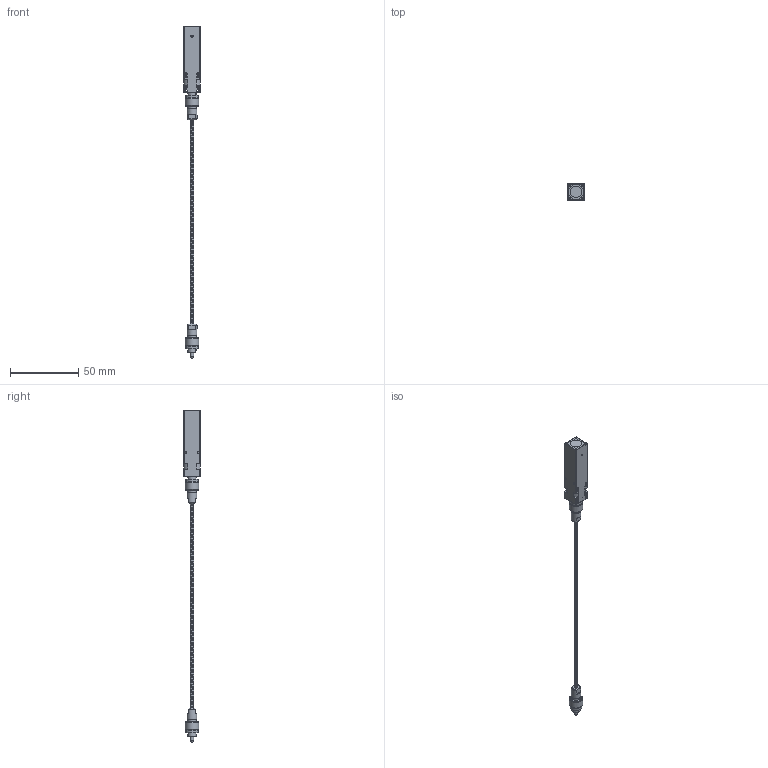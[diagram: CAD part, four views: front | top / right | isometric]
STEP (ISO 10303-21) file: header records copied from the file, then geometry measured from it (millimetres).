
FILE_DESCRIPTION(/* description */ ('IFS2407-0,8(HT)'),/* implementation_level */ '2;1');
FILE_NAME(/* name */ '104316_IFS2407-0,8(HT)_step.stp',/* time_stamp */ '2025-11-21T13:18:21+01:00',/* author */ ('S.Flämig'),/* organization */ (''),/* preprocessor_version */ 'ST-DEVELOPER v20.1',/* originating_system */ 'Autodesk Inventor 2026',/* authorisation */ '');
FILE_SCHEMA (('AUTOMOTIVE_DESIGN { 1 0 10303 214 3 1 1 }'));
Products named in the file (5): 104316_IFS2407-0,8(HT)_step; 104333_Fassung; DIN 914 - M2 x 3; 90010378-1CUS_HTFaser; Linse
Assembly tree (11 placements, depth 2):
  104316_IFS2407-0,8(HT)_step
    104333_Fassung
    DIN 914 - M2 x 3  x8
    90010378-1CUS_HTFaser
    Linse
Bounding box: 12 x 12 x 243.32 mm (x, y, z)
Volume: 9026.8 mm3; surface area: 10838.3 mm2
Topology: 11 solids, 11 shells, 233 faces, 606 edges, 398 vertices
Faces by surface type: plane 112, cylinder 69, cone 44, bspline 8
Full cylindrical faces by diameter (mm): 1.183 x4, 1.5 x5, 1.567 x16, 2 x10, 2.5 x2, 6 x2, 7 x2, 8.5 x1, 8.8 x2, 10 x2, 11.2 x2
Entity records: 42942 total; most frequent: CARTESIAN_POINT 38744, ORIENTED_EDGE 808, DIRECTION 775, EDGE_CURVE 404, AXIS2_PLACEMENT_3D 294, VERTEX_POINT 272, EDGE_LOOP 216, LINE 187
